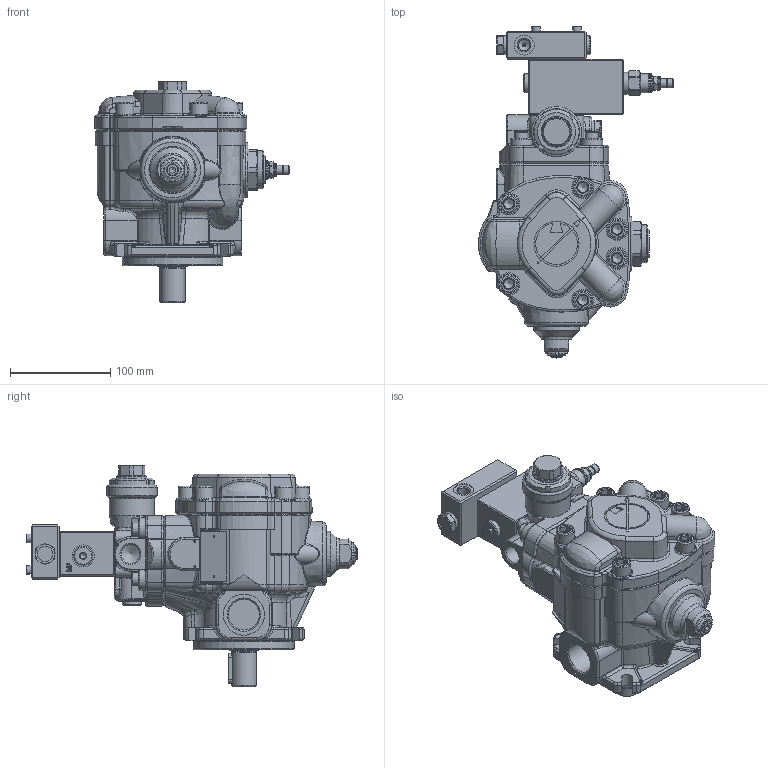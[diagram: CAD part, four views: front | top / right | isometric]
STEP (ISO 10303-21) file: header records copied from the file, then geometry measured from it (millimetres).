
FILE_DESCRIPTION(/* description */ (''),/* implementation_level */ '2;1');
FILE_NAME(/* name */ 'W:\Tecnico\Archivio\Berarma\Dimensioni Pompe\3D Export\Montaggio 3D semplificato\PLP-PHP 1\PHP 1 PCLS003.stp',/* time_stamp */ '2018-10-09T15:04:25+02:00',/* author */ ('marcop'),/* organization */ (''),/* preprocessor_version */ 'ST-DEVELOPER v17',/* originating_system */ 'Autodesk Inventor 2018',/* authorisation */ '');
FILE_SCHEMA (('AUTOMOTIVE_DESIGN { 1 0 10303 214 3 1 1 }'));
Products named in the file (1): PLP-PHP 1_Shrinkwrap_1
Bounding box: 194.5 x 330.7 x 221 mm (x, y, z)
Volume: 2699784.4 mm3; surface area: 314130.4 mm2
Topology: 2 solids, 2 shells, 2373 faces, 6198 edges, 3883 vertices
Faces by surface type: plane 923, cylinder 606, bspline 364, torus 232, cone 225, sphere 23
Full cylindrical faces by diameter (mm): 0.9 x3, 1.7 x4, 2.5 x3, 3 x1, 4 x4, 4.134 x2, 5 x7, 5.5 x5, 6 x3, 6.5 x3, 7.2 x13, 7.671 x2, 8 x2, 8.5 x2, 8.566 x2, 9.347 x2, 9.5 x1, 10 x1, 11.445 x4, 12 x5, 13 x4, 13.487 x1, 13.5 x1, 13.767 x2, 14 x3, 14.224 x1, 14.63 x1, 15 x1, 15.5 x2, 16 x2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
Entity records: 88912 total; most frequent: CARTESIAN_POINT 30574, ORIENTED_EDGE 12298, DIRECTION 11074, EDGE_CURVE 6149, AXIS2_PLACEMENT_3D 4328, VERTEX_POINT 3883, EDGE_LOOP 2564, LINE 2418
